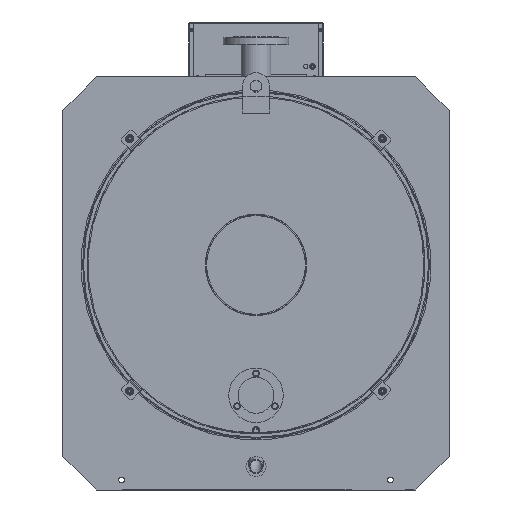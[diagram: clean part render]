
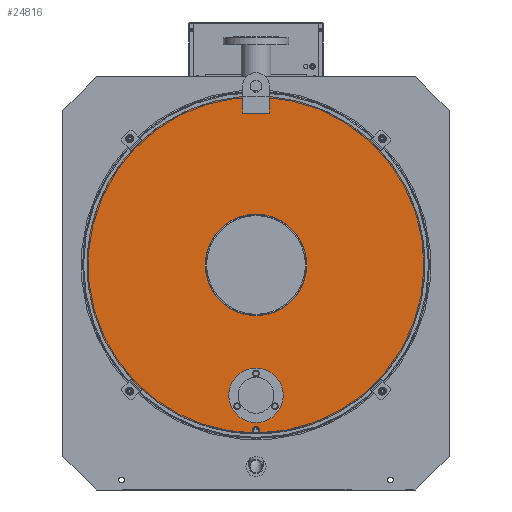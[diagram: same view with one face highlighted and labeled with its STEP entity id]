
A CAD part, left-side view. The second image highlights one B-rep face of the part: STEP entity #24816.
In plain terms, the highlighted planar face has unit normal (-1, 0, 0).
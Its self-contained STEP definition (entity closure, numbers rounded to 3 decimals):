
#24816=ADVANCED_FACE('',(#83470,#83472,#83474),#83476,.T.);
#83470=FACE_BOUND('',#83471,.T.);
#83471=EDGE_LOOP('',(#103727,#103728,#103729,#103730,#103731,#103732,#103733,#103734,
#103735));
#83472=FACE_BOUND('',#83473,.T.);
#83473=EDGE_LOOP('',(#103736));
#83474=FACE_BOUND('',#83475,.T.);
#83475=EDGE_LOOP('',(#103737));
#83476=PLANE('',#83477);
#83477=AXIS2_PLACEMENT_3D('',#83478,#83479,#83480);
#83478=CARTESIAN_POINT('',(-1689.,0.,0.));
#83479=DIRECTION('',(-1.,0.,0.));
#83480=DIRECTION('',(0.,-1.,0.));
#103727=ORIENTED_EDGE('',*,*,#112878,.F.);
#103728=ORIENTED_EDGE('',*,*,#112879,.F.);
#103729=ORIENTED_EDGE('',*,*,#112880,.F.);
#103730=ORIENTED_EDGE('',*,*,#112858,.T.);
#103731=ORIENTED_EDGE('',*,*,#112857,.T.);
#103732=ORIENTED_EDGE('',*,*,#112881,.T.);
#103733=ORIENTED_EDGE('',*,*,#112882,.T.);
#103734=ORIENTED_EDGE('',*,*,#112883,.T.);
#103735=ORIENTED_EDGE('',*,*,#112860,.T.);
#103736=ORIENTED_EDGE('',*,*,#112884,.T.);
#103737=ORIENTED_EDGE('',*,*,#112885,.F.);
#112857=EDGE_CURVE('',#125137,#125135,#125138,.T.);
#112858=EDGE_CURVE('',#125139,#125137,#125140,.T.);
#112860=EDGE_CURVE('',#125143,#125141,#125144,.T.);
#112878=EDGE_CURVE('',#125175,#125141,#125176,.T.);
#112879=EDGE_CURVE('',#125177,#125175,#125178,.T.);
#112880=EDGE_CURVE('',#125139,#125177,#125179,.T.);
#112881=EDGE_CURVE('',#125135,#125180,#125181,.F.);
#112882=EDGE_CURVE('',#125180,#125182,#125183,.F.);
#112883=EDGE_CURVE('',#125182,#125143,#125184,.F.);
#112884=EDGE_CURVE('',#125185,#125185,#125186,.F.);
#112885=EDGE_CURVE('',#125187,#125187,#125188,.T.);
#125135=VERTEX_POINT('',#182839);
#125137=VERTEX_POINT('',#182843);
#125138=CIRCLE('',#182844,503.);
#125139=VERTEX_POINT('',#182848);
#125140=CIRCLE('',#182849,503.);
#125141=VERTEX_POINT('',#182853);
#125143=VERTEX_POINT('',#182858);
#125144=CIRCLE('',#182859,503.);
#125175=VERTEX_POINT('',#182941);
#125176=LINE('',#182942,#182943);
#125177=VERTEX_POINT('',#182945);
#125178=LINE('',#182946,#182947);
#125179=LINE('',#182949,#182950);
#125180=VERTEX_POINT('',#182952);
#125181=LINE('',#182953,#182954);
#125182=VERTEX_POINT('',#182956);
#125183=CIRCLE('',#182957,11.);
#125184=LINE('',#182961,#182962);
#125185=VERTEX_POINT('',#182964);
#125186=CIRCLE('',#182965,151.);
#125187=VERTEX_POINT('',#182969);
#125188=CIRCLE('',#182970,81.);
#182839=CARTESIAN_POINT('',(-1689.,4.583,-502.979));
#182843=CARTESIAN_POINT('',(-1689.,355.407,-355.942));
#182844=AXIS2_PLACEMENT_3D('',#182845,#182846,#182847);
#182845=CARTESIAN_POINT('',(-1689.,0.,0.));
#182846=DIRECTION('',(-1.,0.,0.));
#182847=DIRECTION('',(0.,0.707,-0.708));
#182848=CARTESIAN_POINT('',(-1689.,40.,501.407));
#182849=AXIS2_PLACEMENT_3D('',#182850,#182851,#182852);
#182850=CARTESIAN_POINT('',(-1689.,0.,0.));
#182851=DIRECTION('',(-1.,0.,0.));
#182852=DIRECTION('',(0.,0.08,0.997));
#182853=CARTESIAN_POINT('',(-1689.,-40.,501.407));
#182858=CARTESIAN_POINT('',(-1689.,-4.583,-502.979));
#182859=AXIS2_PLACEMENT_3D('',#182860,#182861,#182862);
#182860=CARTESIAN_POINT('',(-1689.,0.,0.));
#182861=DIRECTION('',(-1.,0.,0.));
#182862=DIRECTION('',(0.,-0.009,-1.));
#182941=CARTESIAN_POINT('',(-1689.,-40.,452.));
#182942=CARTESIAN_POINT('',(-1689.,-40.,452.));
#182943=VECTOR('',#182944,1.);
#182944=DIRECTION('',(0.,0.,1.));
#182945=CARTESIAN_POINT('',(-1689.,40.,452.));
#182946=CARTESIAN_POINT('',(-1689.,40.,452.));
#182947=VECTOR('',#182948,1.);
#182948=DIRECTION('',(0.,-1.,0.));
#182949=CARTESIAN_POINT('',(-1689.,40.,501.407));
#182950=VECTOR('',#182951,1.);
#182951=DIRECTION('',(0.,0.,-1.));
#182952=CARTESIAN_POINT('',(-1689.,4.583,-502.));
#182953=CARTESIAN_POINT('',(-1689.,4.583,-502.));
#182954=VECTOR('',#182955,1.);
#182955=DIRECTION('',(0.,0.,-1.));
#182956=CARTESIAN_POINT('',(-1689.,-4.583,-502.));
#182957=AXIS2_PLACEMENT_3D('',#182958,#182959,#182960);
#182958=CARTESIAN_POINT('',(-1689.,0.,-492.));
#182959=DIRECTION('',(-1.,0.,0.));
#182960=DIRECTION('',(0.,-0.417,-0.909));
#182961=CARTESIAN_POINT('',(-1689.,-4.583,-502.979));
#182962=VECTOR('',#182963,1.);
#182963=DIRECTION('',(0.,0.,1.));
#182964=CARTESIAN_POINT('',(-1689.,-151.,0.));
#182965=AXIS2_PLACEMENT_3D('',#182966,#182967,#182968);
#182966=CARTESIAN_POINT('',(-1689.,0.,0.));
#182967=DIRECTION('',(-1.,0.,0.));
#182968=DIRECTION('',(0.,-1.,0.));
#182969=CARTESIAN_POINT('',(-1689.,-81.,-388.));
#182970=AXIS2_PLACEMENT_3D('',#182971,#182972,#182973);
#182971=CARTESIAN_POINT('',(-1689.,0.,-388.));
#182972=DIRECTION('',(-1.,0.,0.));
#182973=DIRECTION('',(0.,-1.,0.));
